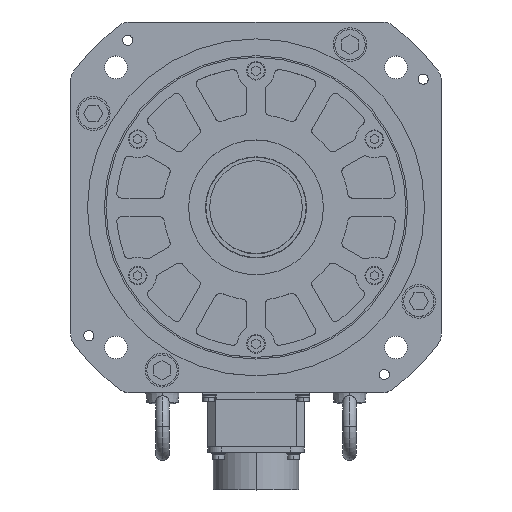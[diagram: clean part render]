
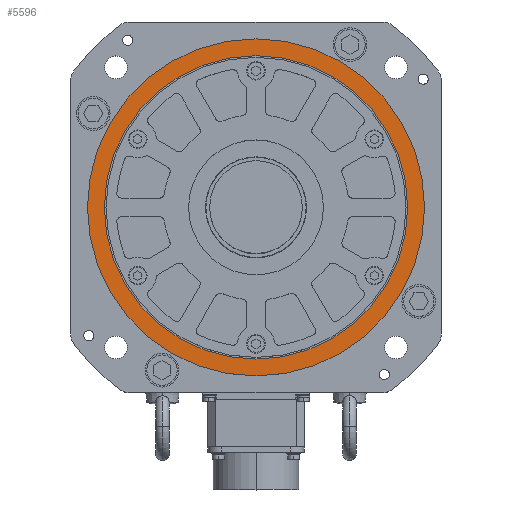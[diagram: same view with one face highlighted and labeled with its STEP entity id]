
A CAD part, top view. The second image highlights one B-rep face of the part: STEP entity #5596.
In plain terms, the highlighted planar face has unit normal (0, 0, 1).
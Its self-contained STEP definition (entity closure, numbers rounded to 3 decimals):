
#4141 = EDGE_CURVE ( 'NONE', #4169, #4170, #20334, .T. ) ;
#4169 = VERTEX_POINT ( 'NONE', #20401 ) ;
#4170 = VERTEX_POINT ( 'NONE', #20400 ) ;
#4948 = EDGE_CURVE ( 'NONE', #4949, #4950, #21943, .T. ) ;
#4949 = VERTEX_POINT ( 'NONE', #21939 ) ;
#4950 = VERTEX_POINT ( 'NONE', #21938 ) ;
#5596 = ADVANCED_FACE ( 'NONE', ( #23095, #23094 ), #23093, .T. ) ;
#5597 = EDGE_LOOP ( 'NONE', ( #5598, #5600 ) ) ;
#5598 = ORIENTED_EDGE ( 'NONE', *, *, #5599, .T. ) ;
#5599 = EDGE_CURVE ( 'NONE', #4950, #4949, #23156, .T. ) ;
#5600 = ORIENTED_EDGE ( 'NONE', *, *, #4948, .T. ) ;
#5601 = EDGE_LOOP ( 'NONE', ( #5602, #5604 ) ) ;
#5602 = ORIENTED_EDGE ( 'NONE', *, *, #5603, .F. ) ;
#5603 = EDGE_CURVE ( 'NONE', #4170, #4169, #23151, .T. ) ;
#5604 = ORIENTED_EDGE ( 'NONE', *, *, #4141, .F. ) ;
#20330 = DIRECTION ( 'NONE',  ( 1., 0., 0. ) ) ;
#20331 = DIRECTION ( 'NONE',  ( 0., 0., 1. ) ) ;
#20332 = CARTESIAN_POINT ( 'NONE',  ( 0., 0., 4. ) ) ;
#20333 = AXIS2_PLACEMENT_3D ( 'NONE', #20332, #20331, #20330 ) ;
#20334 = CIRCLE ( 'NONE', #20333, 90. ) ;
#20400 = CARTESIAN_POINT ( 'NONE',  ( 90., 0., 4. ) ) ;
#20401 = CARTESIAN_POINT ( 'NONE',  ( -90., 0., 4. ) ) ;
#21938 = CARTESIAN_POINT ( 'NONE',  ( -100., 0., 4. ) ) ;
#21939 = CARTESIAN_POINT ( 'NONE',  ( 100., 0., 4. ) ) ;
#21940 = DIRECTION ( 'NONE',  ( 1., 0., 0. ) ) ;
#21941 = DIRECTION ( 'NONE',  ( 0., 0., 1. ) ) ;
#21942 = AXIS2_PLACEMENT_3D ( 'NONE', #21949, #21941, #21940 ) ;
#21943 = CIRCLE ( 'NONE', #21942, 100. ) ;
#21949 = CARTESIAN_POINT ( 'NONE',  ( 0., 0., 4. ) ) ;
#23093 = PLANE ( 'NONE',  #23160 ) ;
#23094 = FACE_BOUND ( 'NONE', #5601, .T. ) ;
#23095 = FACE_OUTER_BOUND ( 'NONE', #5597, .T. ) ;
#23147 = DIRECTION ( 'NONE',  ( 1., 0., 0. ) ) ;
#23148 = DIRECTION ( 'NONE',  ( 0., 0., 1. ) ) ;
#23149 = CARTESIAN_POINT ( 'NONE',  ( 0., 0., 4. ) ) ;
#23150 = AXIS2_PLACEMENT_3D ( 'NONE', #23149, #23148, #23147 ) ;
#23151 = CIRCLE ( 'NONE', #23150, 90. ) ;
#23152 = DIRECTION ( 'NONE',  ( 1., 0., 0. ) ) ;
#23153 = DIRECTION ( 'NONE',  ( 0., 0., 1. ) ) ;
#23154 = CARTESIAN_POINT ( 'NONE',  ( 0., 0., 4. ) ) ;
#23155 = AXIS2_PLACEMENT_3D ( 'NONE', #23154, #23153, #23152 ) ;
#23156 = CIRCLE ( 'NONE', #23155, 100. ) ;
#23157 = DIRECTION ( 'NONE',  ( 1., 0., 0. ) ) ;
#23158 = DIRECTION ( 'NONE',  ( 0., 0., 1. ) ) ;
#23159 = CARTESIAN_POINT ( 'NONE',  ( 0., 0., 4. ) ) ;
#23160 = AXIS2_PLACEMENT_3D ( 'NONE', #23159, #23158, #23157 ) ;
